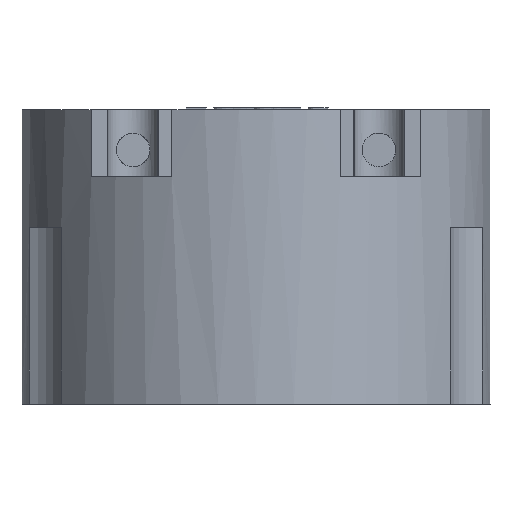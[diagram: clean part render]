
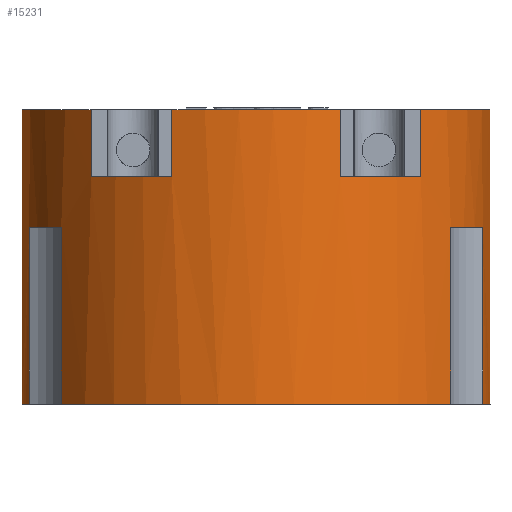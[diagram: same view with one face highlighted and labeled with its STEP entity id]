
A CAD part, front view. The second image highlights one B-rep face of the part: STEP entity #15231.
In plain terms, the highlighted cylindrical face has radius 14 mm (diameter 28 mm), a partial arc.
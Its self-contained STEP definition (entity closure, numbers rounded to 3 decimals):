
#7631= CARTESIAN_POINT(' ',(-13.9,-1.67,4.7));
#7632= VERTEX_POINT(' ',#7631);
#7646= CARTESIAN_POINT(' ',(0.,0.,4.7));
#7651= DIRECTION(' ',(0.,0.,-1.));
#7656= DIRECTION(' ',(-0.7,-0.714,0.));
#7661= AXIS2_PLACEMENT_3D(' ',#7646,#7651,#7656);
#7666= CIRCLE(' ',#7661,14.);
#7671= CARTESIAN_POINT(' ',(-9.798,-10.,4.7));
#7672= VERTEX_POINT(' ',#7671);
#7676= EDGE_CURVE(' ',#7672,#7632,#7666,.T.);
#7856= CARTESIAN_POINT(' ',(-5.,-13.077,4.7));
#7857= VERTEX_POINT(' ',#7856);
#7871= CARTESIAN_POINT(' ',(0.,0.,4.7));
#7876= DIRECTION(' ',(0.,0.,-1.));
#7881= DIRECTION(' ',(0.357,-0.934,0.));
#7886= AXIS2_PLACEMENT_3D(' ',#7871,#7876,#7881);
#7891= CIRCLE(' ',#7886,14.);
#7896= CARTESIAN_POINT(' ',(5.,-13.077,4.7));
#7897= VERTEX_POINT(' ',#7896);
#7901= EDGE_CURVE(' ',#7897,#7857,#7891,.T.);
#8081= CARTESIAN_POINT(' ',(9.798,-10.,4.7));
#8082= VERTEX_POINT(' ',#8081);
#8096= CARTESIAN_POINT(' ',(0.,0.,4.7));
#8101= DIRECTION(' ',(0.,0.,-1.));
#8106= DIRECTION(' ',(0.993,-0.119,0.));
#8111= AXIS2_PLACEMENT_3D(' ',#8096,#8101,#8106);
#8116= CIRCLE(' ',#8111,14.);
#8121= CARTESIAN_POINT(' ',(13.9,-1.67,4.7));
#8122= VERTEX_POINT(' ',#8121);
#8126= EDGE_CURVE(' ',#8122,#8082,#8116,.T.);
#14526= CARTESIAN_POINT(' ',(-13.9,-1.67,-12.8));
#14527= VERTEX_POINT(' ',#14526);
#14541= CARTESIAN_POINT(' ',(-13.9,-1.67,-12.8));
#14546= DIRECTION(' ',(0.,0.,1.));
#14551= VECTOR(' ',#14546,1.);
#14556= LINE(' ',#14541,#14551);
#14561= EDGE_CURVE(' ',#14527,#7632,#14556,.T.);
#14596= CARTESIAN_POINT(' ',(0.,0.,4.7));
#14601= DIRECTION(' ',(0.,0.,-1.));
#14606= DIRECTION(' ',(0.993,-0.119,0.));
#14611= AXIS2_PLACEMENT_3D(' ',#14596,#14601,#14606);
#14616= CYLINDRICAL_SURFACE(' ',#14611,14.);
#14621= CARTESIAN_POINT(' ',(0.,0.,-12.8));
#14626= DIRECTION(' ',(0.,0.,-1.));
#14631= DIRECTION(' ',(-0.962,-0.272,0.));
#14636= AXIS2_PLACEMENT_3D(' ',#14621,#14626,#14631);
#14641= CIRCLE(' ',#14636,14.);
#14646= CARTESIAN_POINT(' ',(-13.474,-3.802,-12.8));
#14647= VERTEX_POINT(' ',#14646);
#14651= EDGE_CURVE(' ',#14647,#14527,#14641,.T.);
#14656= ORIENTED_EDGE(' ',*,*,#14651,.F.);
#14661= CARTESIAN_POINT(' ',(-13.474,-3.802,-12.8));
#14666= DIRECTION(' ',(0.,0.,1.));
#14671= VECTOR(' ',#14666,1.);
#14676= LINE(' ',#14661,#14671);
#14681= CARTESIAN_POINT(' ',(-13.474,-3.802,-2.3));
#14682= VERTEX_POINT(' ',#14681);
#14686= EDGE_CURVE(' ',#14647,#14682,#14676,.T.);
#14691= ORIENTED_EDGE(' ',*,*,#14686,.T.);
#14696= CARTESIAN_POINT(' ',(0.,0.,-2.3));
#14701= DIRECTION(' ',(0.,0.,1.));
#14706= DIRECTION(' ',(-0.962,-0.272,0.));
#14711= AXIS2_PLACEMENT_3D(' ',#14696,#14701,#14706);
#14716= CIRCLE(' ',#14711,14.);
#14721= CARTESIAN_POINT(' ',(-11.573,-7.878,-2.3));
#14722= VERTEX_POINT(' ',#14721);
#14726= EDGE_CURVE(' ',#14682,#14722,#14716,.T.);
#14731= ORIENTED_EDGE(' ',*,*,#14726,.T.);
#14736= CARTESIAN_POINT(' ',(-11.573,-7.878,-2.3));
#14741= DIRECTION(' ',(0.,0.,-1.));
#14746= VECTOR(' ',#14741,1.);
#14751= LINE(' ',#14736,#14746);
#14756= CARTESIAN_POINT(' ',(-11.573,-7.878,-12.8));
#14757= VERTEX_POINT(' ',#14756);
#14761= EDGE_CURVE(' ',#14722,#14757,#14751,.T.);
#14766= ORIENTED_EDGE(' ',*,*,#14761,.T.);
#14771= CARTESIAN_POINT(' ',(0.,0.,-12.8));
#14776= DIRECTION(' ',(0.,0.,-1.));
#14781= DIRECTION(' ',(0.827,-0.563,0.));
#14786= AXIS2_PLACEMENT_3D(' ',#14771,#14776,#14781);
#14791= CIRCLE(' ',#14786,14.);
#14796= CARTESIAN_POINT(' ',(11.573,-7.878,-12.8));
#14797= VERTEX_POINT(' ',#14796);
#14801= EDGE_CURVE(' ',#14797,#14757,#14791,.T.);
#14806= ORIENTED_EDGE(' ',*,*,#14801,.F.);
#14811= CARTESIAN_POINT(' ',(11.573,-7.878,-12.8));
#14816= DIRECTION(' ',(0.,0.,1.));
#14821= VECTOR(' ',#14816,1.);
#14826= LINE(' ',#14811,#14821);
#14831= CARTESIAN_POINT(' ',(11.573,-7.878,-2.3));
#14832= VERTEX_POINT(' ',#14831);
#14836= EDGE_CURVE(' ',#14797,#14832,#14826,.T.);
#14841= ORIENTED_EDGE(' ',*,*,#14836,.T.);
#14846= CARTESIAN_POINT(' ',(0.,0.,-2.3));
#14851= DIRECTION(' ',(0.,0.,1.));
#14856= DIRECTION(' ',(0.827,-0.563,0.));
#14861= AXIS2_PLACEMENT_3D(' ',#14846,#14851,#14856);
#14866= CIRCLE(' ',#14861,14.);
#14871= CARTESIAN_POINT(' ',(13.474,-3.802,-2.3));
#14872= VERTEX_POINT(' ',#14871);
#14876= EDGE_CURVE(' ',#14832,#14872,#14866,.T.);
#14881= ORIENTED_EDGE(' ',*,*,#14876,.T.);
#14886= CARTESIAN_POINT(' ',(13.474,-3.802,-2.3));
#14891= DIRECTION(' ',(0.,0.,-1.));
#14896= VECTOR(' ',#14891,1.);
#14901= LINE(' ',#14886,#14896);
#14906= CARTESIAN_POINT(' ',(13.474,-3.802,-12.8));
#14907= VERTEX_POINT(' ',#14906);
#14911= EDGE_CURVE(' ',#14872,#14907,#14901,.T.);
#14916= ORIENTED_EDGE(' ',*,*,#14911,.T.);
#14921= CARTESIAN_POINT(' ',(0.,0.,-12.8));
#14926= DIRECTION(' ',(0.,0.,-1.));
#14931= DIRECTION(' ',(0.993,-0.119,0.));
#14936= AXIS2_PLACEMENT_3D(' ',#14921,#14926,#14931);
#14941= CIRCLE(' ',#14936,14.);
#14946= CARTESIAN_POINT(' ',(13.9,-1.67,-12.8));
#14947= VERTEX_POINT(' ',#14946);
#14951= EDGE_CURVE(' ',#14947,#14907,#14941,.T.);
#14956= ORIENTED_EDGE(' ',*,*,#14951,.F.);
#14961= CARTESIAN_POINT(' ',(13.9,-1.67,-12.8));
#14966= DIRECTION(' ',(0.,0.,1.));
#14971= VECTOR(' ',#14966,1.);
#14976= LINE(' ',#14961,#14971);
#14981= EDGE_CURVE(' ',#14947,#8122,#14976,.T.);
#14986= ORIENTED_EDGE(' ',*,*,#14981,.T.);
#14991= ORIENTED_EDGE(' ',*,*,#8126,.T.);
#14996= CARTESIAN_POINT(' ',(9.798,-10.,4.7));
#15001= DIRECTION(' ',(0.,0.,-1.));
#15006= VECTOR(' ',#15001,1.);
#15011= LINE(' ',#14996,#15006);
#15016= CARTESIAN_POINT(' ',(9.798,-10.,0.7));
#15017= VERTEX_POINT(' ',#15016);
#15021= EDGE_CURVE(' ',#8082,#15017,#15011,.T.);
#15026= ORIENTED_EDGE(' ',*,*,#15021,.T.);
#15031= CARTESIAN_POINT(' ',(0.,0.,0.7));
#15036= DIRECTION(' ',(0.,0.,-1.));
#15041= DIRECTION(' ',(0.7,-0.714,0.));
#15046= AXIS2_PLACEMENT_3D(' ',#15031,#15036,#15041);
#15051= CIRCLE(' ',#15046,14.);
#15056= CARTESIAN_POINT(' ',(5.,-13.077,0.7));
#15057= VERTEX_POINT(' ',#15056);
#15061= EDGE_CURVE(' ',#15017,#15057,#15051,.T.);
#15066= ORIENTED_EDGE(' ',*,*,#15061,.T.);
#15071= CARTESIAN_POINT(' ',(5.,-13.077,0.7));
#15076= DIRECTION(' ',(0.,0.,1.));
#15081= VECTOR(' ',#15076,1.);
#15086= LINE(' ',#15071,#15081);
#15091= EDGE_CURVE(' ',#15057,#7897,#15086,.T.);
#15096= ORIENTED_EDGE(' ',*,*,#15091,.T.);
#15101= ORIENTED_EDGE(' ',*,*,#7901,.T.);
#15106= CARTESIAN_POINT(' ',(-5.,-13.077,4.7));
#15111= DIRECTION(' ',(0.,0.,-1.));
#15116= VECTOR(' ',#15111,1.);
#15121= LINE(' ',#15106,#15116);
#15126= CARTESIAN_POINT(' ',(-5.,-13.077,0.7));
#15127= VERTEX_POINT(' ',#15126);
#15131= EDGE_CURVE(' ',#7857,#15127,#15121,.T.);
#15136= ORIENTED_EDGE(' ',*,*,#15131,.T.);
#15141= CARTESIAN_POINT(' ',(0.,0.,0.7));
#15146= DIRECTION(' ',(0.,0.,-1.));
#15151= DIRECTION(' ',(-0.357,-0.934,0.));
#15156= AXIS2_PLACEMENT_3D(' ',#15141,#15146,#15151);
#15161= CIRCLE(' ',#15156,14.);
#15166= CARTESIAN_POINT(' ',(-9.798,-10.,0.7));
#15167= VERTEX_POINT(' ',#15166);
#15171= EDGE_CURVE(' ',#15127,#15167,#15161,.T.);
#15176= ORIENTED_EDGE(' ',*,*,#15171,.T.);
#15181= CARTESIAN_POINT(' ',(-9.798,-10.,0.7));
#15186= DIRECTION(' ',(0.,0.,1.));
#15191= VECTOR(' ',#15186,1.);
#15196= LINE(' ',#15181,#15191);
#15201= EDGE_CURVE(' ',#15167,#7672,#15196,.T.);
#15206= ORIENTED_EDGE(' ',*,*,#15201,.T.);
#15211= ORIENTED_EDGE(' ',*,*,#7676,.T.);
#15216= ORIENTED_EDGE(' ',*,*,#14561,.F.);
#15221= EDGE_LOOP(' ',(#14656,#14691,#14731,#14766,#14806,#14841,#14881,#14916,#14956,#14986,#14991,#15026,#15066,#15096,#15101,#15136,#15176,#15206,#15211,#15216));
#15226= FACE_OUTER_BOUND(' ',#15221,.T.);
#15231= ADVANCED_FACE(' ',(#15226),#14616,.T.);
